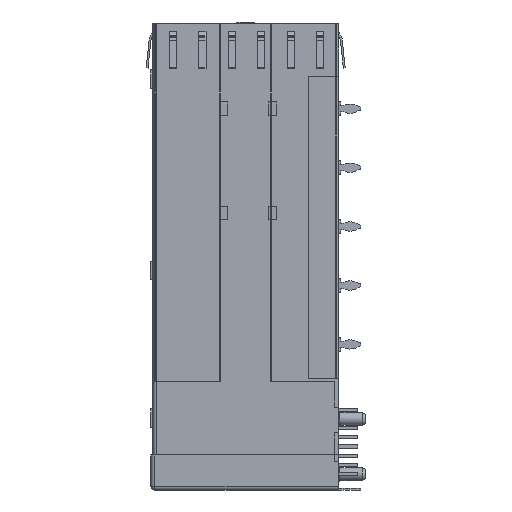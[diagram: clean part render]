
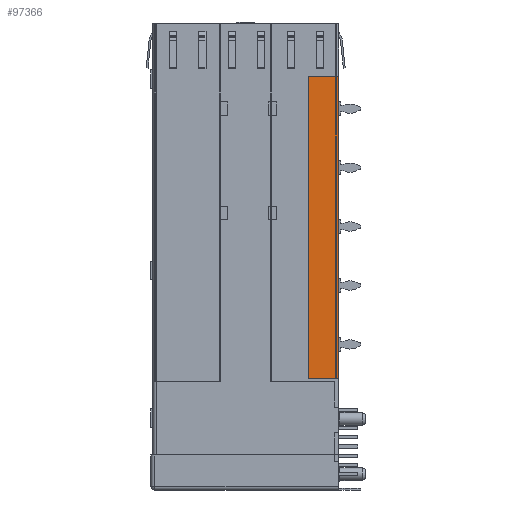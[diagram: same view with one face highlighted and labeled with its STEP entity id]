
A CAD part, left-side view. The second image highlights one B-rep face of the part: STEP entity #97366.
In plain terms, the highlighted planar face has unit normal (-1, 0, 0).
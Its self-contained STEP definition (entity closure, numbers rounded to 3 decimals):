
#3490 = EDGE_CURVE ( 'NONE', #201701, #70292, #127756, .T. ) ;
#11350 = DIRECTION ( 'NONE',  ( 1., 0., 0. ) ) ;
#18235 = AXIS2_PLACEMENT_3D ( 'NONE', #206034, #11350, #125052 ) ;
#23447 = ORIENTED_EDGE ( 'NONE', *, *, #178884, .F. ) ;
#24613 = DIRECTION ( 'NONE',  ( 0., 0., -1. ) ) ;
#27462 = LINE ( 'NONE', #29027, #152115 ) ;
#29027 = CARTESIAN_POINT ( 'NONE',  ( -85.875, 4.1, -7.1 ) ) ;
#39879 = CARTESIAN_POINT ( 'NONE',  ( -85.875, 0., -7.1 ) ) ;
#45368 = DIRECTION ( 'NONE',  ( 0., 0., 1. ) ) ;
#46489 = ORIENTED_EDGE ( 'NONE', *, *, #3490, .F. ) ;
#53892 = DIRECTION ( 'NONE',  ( 0., 1., 0. ) ) ;
#54888 = CARTESIAN_POINT ( 'NONE',  ( -85.875, 0., -48.1 ) ) ;
#59645 = PLANE ( 'NONE',  #18235 ) ;
#70292 = VERTEX_POINT ( 'NONE', #131202 ) ;
#72511 = DIRECTION ( 'NONE',  ( 0., -1., 0. ) ) ;
#81384 = EDGE_CURVE ( 'NONE', #110181, #130154, #97143, .T. ) ;
#89549 = ORIENTED_EDGE ( 'NONE', *, *, #81384, .F. ) ;
#90287 = VECTOR ( 'NONE', #24613, 1000. ) ;
#97143 = LINE ( 'NONE', #167681, #183663 ) ;
#97366 = ADVANCED_FACE ( 'NONE', ( #139200 ), #59645, .F. ) ;
#110181 = VERTEX_POINT ( 'NONE', #54888 ) ;
#117396 = EDGE_CURVE ( 'NONE', #70292, #110181, #133517, .T. ) ;
#121982 = CARTESIAN_POINT ( 'NONE',  ( -85.875, 4.1, -48.1 ) ) ;
#125052 = DIRECTION ( 'NONE',  ( 0., 0., 1. ) ) ;
#125677 = ORIENTED_EDGE ( 'NONE', *, *, #117396, .F. ) ;
#127756 = LINE ( 'NONE', #39879, #155755 ) ;
#130154 = VERTEX_POINT ( 'NONE', #121982 ) ;
#131202 = CARTESIAN_POINT ( 'NONE',  ( -85.875, 0., -7.1 ) ) ;
#133517 = LINE ( 'NONE', #186665, #90287 ) ;
#139200 = FACE_OUTER_BOUND ( 'NONE', #190899, .T. ) ;
#151365 = CARTESIAN_POINT ( 'NONE',  ( -85.875, 4.1, -7.1 ) ) ;
#152115 = VECTOR ( 'NONE', #45368, 1000. ) ;
#155755 = VECTOR ( 'NONE', #72511, 1000. ) ;
#167681 = CARTESIAN_POINT ( 'NONE',  ( -85.875, 0., -48.1 ) ) ;
#178884 = EDGE_CURVE ( 'NONE', #130154, #201701, #27462, .T. ) ;
#183663 = VECTOR ( 'NONE', #53892, 1000. ) ;
#186665 = CARTESIAN_POINT ( 'NONE',  ( -85.875, 0., -7.1 ) ) ;
#190899 = EDGE_LOOP ( 'NONE', ( #46489, #23447, #89549, #125677 ) ) ;
#201701 = VERTEX_POINT ( 'NONE', #151365 ) ;
#206034 = CARTESIAN_POINT ( 'NONE',  ( -85.875, 0., 0. ) ) ;
